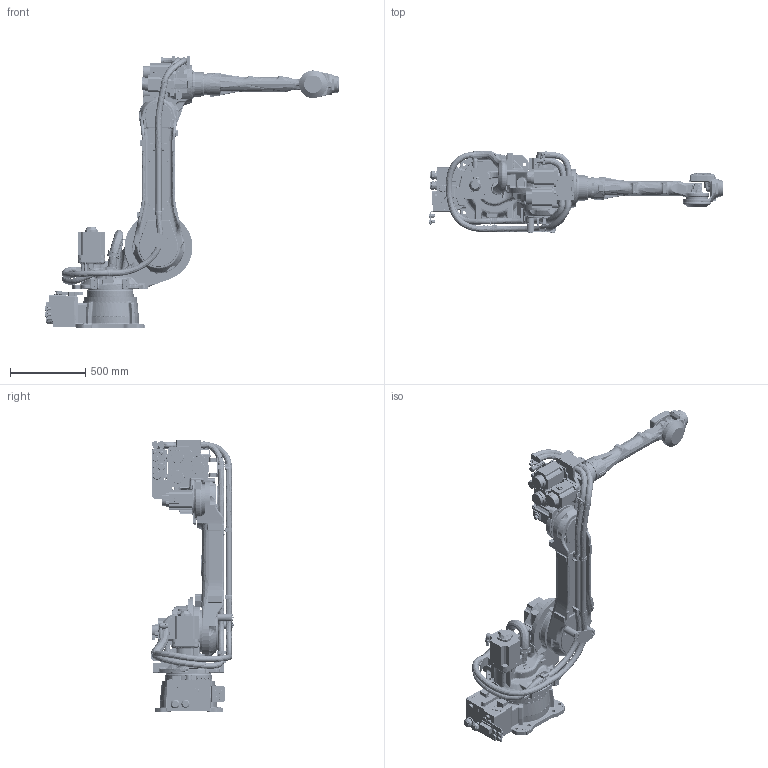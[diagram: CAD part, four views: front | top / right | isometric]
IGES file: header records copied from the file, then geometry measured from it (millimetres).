
Global section: file name: U:\Moto\gp88_asm_asm\gp88-fertig\gp88.igs; native system: NX V10.0; preprocessor: SIEMENS PLM Software NX 10.0; date: 20180524.104249; units: millimetre
Bounding box: 1955.5 x 550.91 x 1811 mm (x, y, z)
Surface area: 7111291.6 mm2 (no closed solid volume)
Topology: 0 solids, 0 shells, 8753 faces, 63172 edges, 63053 vertices
Faces by surface type: bspline 8753
